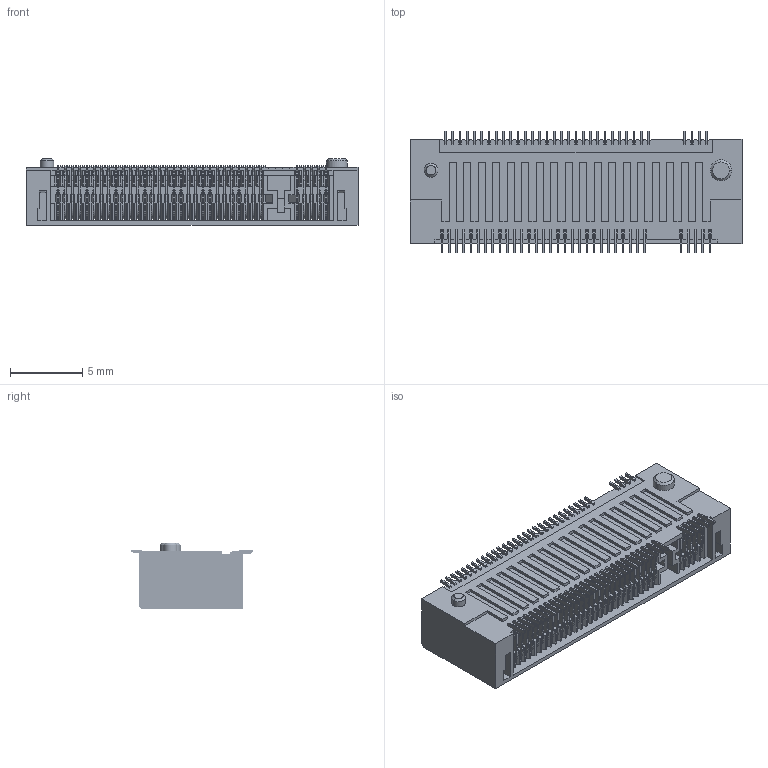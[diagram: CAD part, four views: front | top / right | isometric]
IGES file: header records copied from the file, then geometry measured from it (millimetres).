
Start section:  PTC IGES file: CE-M2A20_CX4-M40M4-1711.igs
Global section: file name: CE-M2A20_CX4-M40M4-1711.igs; native system: Pro/ENGINEER by Parametric Technology Corporation; preprocessor: 2009440; author: User; organization: Unknown; date: 20211028.153335; units: millimetre
Bounding box: 22.9 x 8.4 x 4.6 mm (x, y, z)
Volume: 436.8 mm3; surface area: 2013.1 mm2
Topology: 1 solids, 1 shells, 7711 faces, 25372 edges, 16692 vertices
Faces by surface type: bspline 5045, revolution 2666
